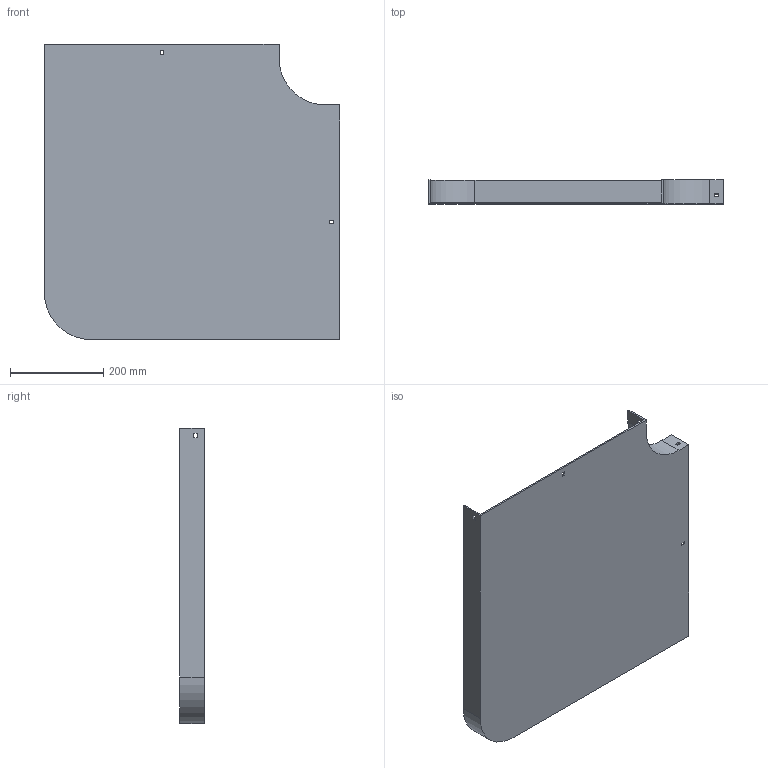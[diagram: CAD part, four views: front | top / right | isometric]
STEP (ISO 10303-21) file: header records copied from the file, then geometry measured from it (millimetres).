
FILE_DESCRIPTION (( 'STEP AP214' ), '1' );
FILE_NAME ('10F1B500.step', '2025-02-21T12:57:14', ( '' ), ( '' ), 'SwSTEP 2.0', 'SolidWorks 2023', '' );
FILE_SCHEMA (( 'AUTOMOTIVE_DESIGN' ));
Length unit declared in the file: millimetre
Products named in the file (1): 10F1B500
Bounding box: 634 x 52 x 634 mm (x, y, z)
Volume: 1591113 mm3; surface area: 919155 mm2
Topology: 1 solids, 1 shells, 42 faces, 120 edges, 80 vertices
Faces by surface type: plane 38, cylinder 4
Entity records: 1399 total; most frequent: CARTESIAN_POINT 243, ORIENTED_EDGE 240, DIRECTION 214, EDGE_CURVE 120, VECTOR 112, LINE 112, VERTEX_POINT 80, EDGE_LOOP 54
